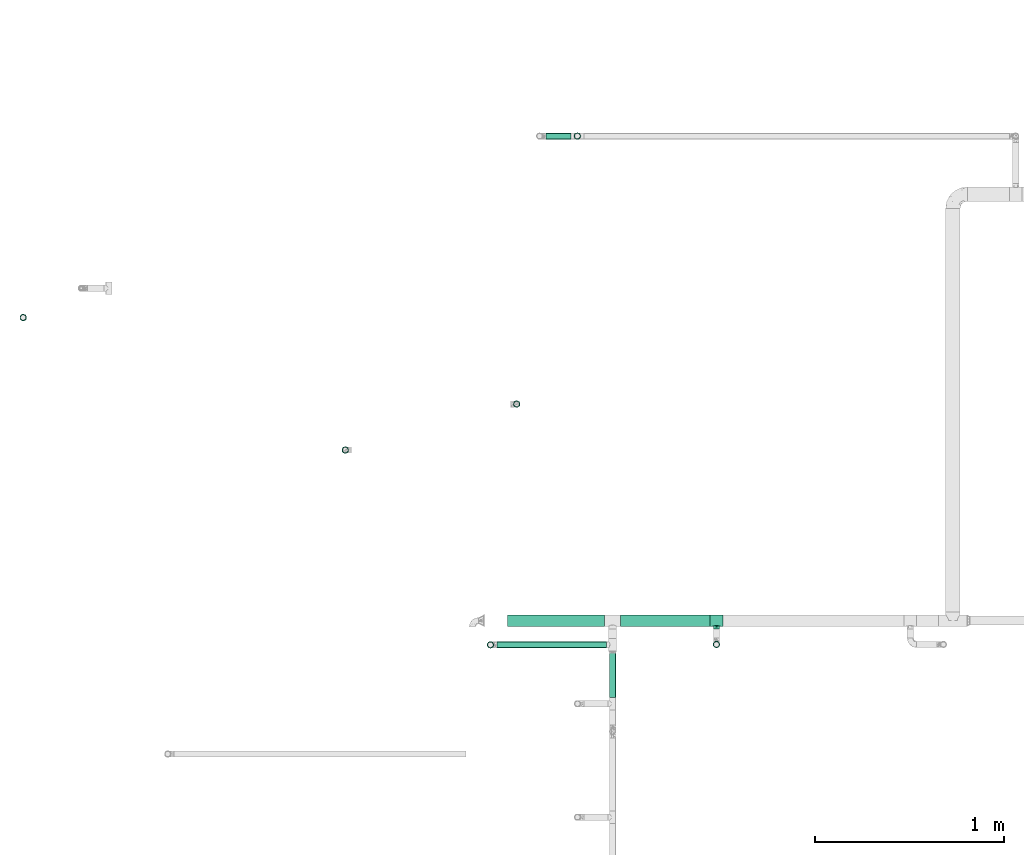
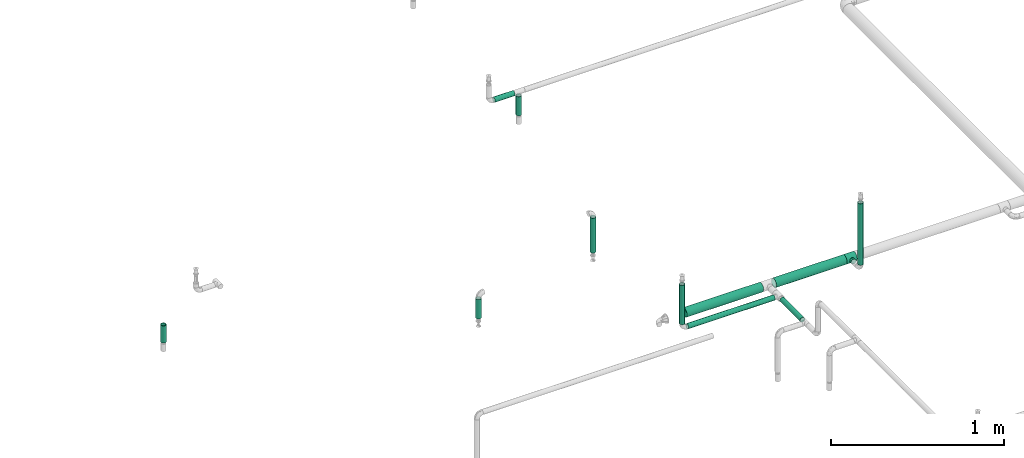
# One storey, part 9 of 157: 11 flow segments, 1 flow fitting.
"""IFC2X3 building model written with IfcOpenShell, lengths in millimetres."""

from ifc_helpers import new_model, entity, si_unit, converted_unit, derived_unit, direction, frame, origin_with_axes, origin_2d_with_axis, place, context, subcontext, project, spatial, hollow_circle, extrude, open_shell, surface_model, source, transform, mapped, type_object, element, save


model = new_model("IFC2X3")

# Units and contexts
model_context = context("Model", 3, precision=0.01, world=frame((0.0, 4.29681676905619e-09, 0.0)), true_north=direction((4.01073788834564e-13, 1.0)))
plan_context = context("Plan", 3, precision=0.01, world=frame((0.0, 4.29681676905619e-09, 0.0)), true_north=direction((4.01073788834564e-13, 1.0)))
body_context = subcontext(model_context, "Body", "Model", "MODEL_VIEW")
ifc_project = project(units=[converted_unit("PLANEANGLEUNIT", "DEGREE", entity("IfcPositiveLengthMeasure", 0.0174532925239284), si_unit("PLANEANGLEUNIT", "RADIAN"), dimensions=[0, 0, 0, 0, 0, 0, 0]), si_unit("AREAUNIT", "SQUARE_METRE"), si_unit("LENGTHUNIT", "METRE", prefix="MILLI"), si_unit("MASSUNIT", "GRAM", prefix="KILO"), si_unit("POWERUNIT", "WATT"), si_unit("PRESSUREUNIT", "PASCAL"), si_unit("FORCEUNIT", "NEWTON", prefix="KILO"), si_unit("ELECTRICCURRENTUNIT", "AMPERE"), si_unit("THERMODYNAMICTEMPERATUREUNIT", "DEGREE_CELSIUS"), si_unit("TIMEUNIT", "SECOND"), si_unit("VOLUMEUNIT", "CUBIC_METRE"), derived_unit("LINEARVELOCITYUNIT", [(si_unit("LENGTHUNIT", "METRE"), 1), (si_unit("TIMEUNIT", "SECOND"), -1)]), derived_unit("VOLUMETRICFLOWRATEUNIT", [(si_unit("VOLUMEUNIT", "CUBIC_METRE"), 1), (si_unit("TIMEUNIT", "SECOND"), -1)]), derived_unit("THERMALTRANSMITTANCEUNIT", [(si_unit("POWERUNIT", "WATT"), 1), (si_unit("THERMODYNAMICTEMPERATUREUNIT", "KELVIN"), -1), (si_unit("AREAUNIT", "SQUARE_METRE"), -1)])], contexts=[model_context, plan_context])

# Site, building, storey
site_placement = place(None, frame((0.0, -4.29681676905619e-09, 0.0), z_axis=(0.0, 0.0, 1.0), x_axis=(1.0, 0.0, 0.0)))
site = spatial("IfcSite", under=ifc_project, at=site_placement, CompositionType="ELEMENT")
building_placement = place(site_placement, frame((0.0, 4.29681676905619e-09, 0.0), z_axis=(0.0, 0.0, 1.0), x_axis=(1.0, 0.0, 0.0)))
building = spatial("IfcBuilding", under=site, at=building_placement, Name="mc-building", CompositionType="ELEMENT")
storey_placement = place(building_placement, frame((0.0, 0.0, 204000.0), z_axis=(0.0, 0.0, 1.0), x_axis=(1.0, 0.0, 0.0)))
storey = spatial("IfcBuildingStorey", under=building, at=storey_placement, Name="Nivå D", CompositionType="ELEMENT", Elevation=204000.0)

# Flow fitting
pipe_fitting_type = type_object("IfcPipeFittingType", Name="magi_pipe_fe_tee_centric_90_NOR", PredefinedType="JUNCTION")
shared_shape_1 = source(origin_with_axes(), body_context, "Body", "SurfaceModel", [
    surface_model("IfcShellBasedSurfaceModel", [(-33.8, 15.1, -26.15397), (-33.8, 7.81634, -29.17096), (-33.8, 0.0, -30.2), (-33.8, 29.17096, -7.81634), (-33.8, 26.15397, -15.1), (-33.8, 21.35462, -21.35462), (-33.8, 30.2, 0.0), (-33.8, -30.2, 0.0), (-33.8, -15.1, -26.15397), (-33.8, -21.35462, -21.35462), (-33.8, -7.81634, -29.17096), (-33.8, -26.15397, -15.1), (-33.8, -29.17096, -7.81634), (-33.8, 26.15397, 15.1), (-33.8, 29.17096, 7.81634), (-33.8, 15.1, 26.15397), (-33.8, -21.35462, 21.35462), (-33.8, 21.35462, 21.35462), (-33.8, 7.81634, 29.17096), (-33.8, -29.17096, 7.81634), (-33.8, -26.15397, 15.1), (-33.8, -7.81634, 29.17096), (-33.8, 0.0, 30.2), (-33.8, -15.1, 26.15397), (33.8, 29.17096, -7.81634), (33.8, 0.0, -30.2), (33.8, 7.81634, -29.17096), (33.8, 21.35462, -21.35462), (33.8, 15.1, -26.15397), (33.8, 26.15397, -15.1), (33.8, -30.2, 0.0), (33.8, -7.81634, -29.17096), (33.8, -21.35462, -21.35462), (33.8, -15.1, -26.15397), (33.8, -29.17096, -7.81634), (33.8, -26.15397, -15.1), (33.8, 30.2, 0.0), (33.8, 29.17096, 7.81634), (33.8, 26.15397, 15.1), (33.8, -29.17096, 7.81634), (33.8, 15.1, 26.15397), (33.8, 7.81634, 29.17096), (33.8, 21.35462, 21.35462), (33.8, -21.35462, 21.35462), (33.8, -26.15397, 15.1), (33.8, -15.1, 26.15397), (33.8, 0.0, 30.2), (33.8, -7.81634, 29.17096), (33.8, -29.68548, 3.90817), (15.846, -29.62306, 5.87488), (16.373, -29.91153, 2.93744), (12.91037, -28.16217, 10.90561), (2.99213, -25.2068, 16.63301), (16.9, -30.2, 0.0), (33.8, -27.66246, 11.45817), (8.50854, -26.43531, 14.60187), (-8.51006, -26.43579, 14.60099), (-33.8, -27.66246, 11.45817), (-12.91447, -28.16405, 10.90075), (-15.84655, -29.62335, 5.87341), (-33.8, -29.68548, 3.90817), (-16.37327, -29.91168, 2.93671), (-16.9, -30.2, 0.0), (-2.99705, -25.20739, 16.63213), (2.99213, -25.2068, -16.63301), (-16.37327, -29.91168, -2.93671), (8.50854, -26.43531, -14.60187), (33.8, -27.66246, -11.45817), (16.373, -29.91153, -2.93744), (-33.8, -29.68548, -3.90817), (-15.84655, -29.62335, -5.87341), (15.846, -29.62306, -5.87488), (12.91037, -28.16217, -10.90561), (33.8, -29.68548, -3.90817), (-2.99705, -25.20739, -16.63213), (-8.51006, -26.43579, -14.60099), (-12.91447, -28.16405, -10.90075), (-33.8, -27.66246, -11.45817), (4.37404, -45.3, -16.32415), (-16.9, -45.3, 0.0), (0.0, -45.3, -16.9), (14.63583, -45.3, -8.45), (8.45, -45.3, -14.63583), (16.32415, -45.3, -4.37404), (11.9501, -45.3, -11.9501), (-11.9501, -45.3, -11.9501), (-8.45, -45.3, -14.63583), (-4.37404, -45.3, -16.32415), (-14.63583, -45.3, -8.45), (-16.32415, -45.3, -4.37404), (16.9, -45.3, 0.0), (8.45, -45.3, 14.63583), (16.32415, -45.3, 4.37404), (14.63583, -45.3, 8.45), (-8.45, -45.3, 14.63583), (11.9501, -45.3, 11.9501), (4.37404, -45.3, 16.32415), (-16.32415, -45.3, 4.37404), (-11.9501, -45.3, 11.9501), (-14.63583, -45.3, 8.45), (0.0, -45.3, 16.9), (-4.37404, -45.3, 16.32415), (-5.75355, -25.82159, 15.61656), (-0.00246, -25.20709, 16.63257), (5.75034, -25.82105, 15.61744), (5.75034, -25.82105, -15.61744), (-0.00246, -25.20709, -16.63257), (-5.75355, -25.82159, -15.61656)], [open_shell([[[0, 1, 2]], [[3, 0, 2]], [[0, 3, 4]], [[5, 0, 4]], [[6, 2, 7]], [[8, 9, 10]], [[9, 2, 10]], [[11, 12, 9]], [[7, 9, 12]], [[9, 7, 2]], [[6, 3, 2]], [[13, 14, 6]], [[7, 15, 13]], [[7, 16, 15]], [[17, 13, 15]], [[18, 15, 16]], [[19, 20, 7]], [[7, 20, 16]], [[21, 22, 23]], [[16, 23, 22]], [[16, 22, 18]], [[7, 13, 6]], [[24, 25, 26]], [[27, 26, 28]], [[29, 24, 26]], [[29, 26, 27]], [[25, 24, 30]], [[31, 32, 33]], [[32, 31, 34]], [[32, 34, 35]], [[34, 31, 30]], [[31, 25, 30]], [[24, 36, 30]], [[36, 37, 38]], [[39, 36, 38]], [[40, 41, 38]], [[40, 38, 42]], [[43, 38, 41]], [[39, 43, 44]], [[39, 38, 43]], [[45, 46, 47]], [[46, 45, 43]], [[41, 46, 43]], [[36, 39, 30]], [[48, 39, 49]], [[30, 48, 50]], [[39, 51, 49]], [[44, 43, 52]], [[30, 50, 53]], [[51, 54, 55]], [[52, 55, 44]], [[48, 49, 50]], [[43, 16, 52]], [[55, 54, 44]], [[56, 57, 58]], [[59, 60, 61]], [[62, 61, 7]], [[59, 58, 19]], [[56, 63, 20]], [[51, 39, 54]], [[20, 57, 56]], [[20, 63, 16]], [[58, 57, 19]], [[63, 52, 16]], [[7, 61, 60]], [[59, 19, 60]], [[43, 23, 16]], [[22, 47, 46]], [[21, 45, 47]], [[18, 46, 41]], [[38, 37, 14]], [[17, 40, 42]], [[13, 42, 38]], [[41, 40, 15]], [[6, 37, 36]], [[23, 45, 21]], [[21, 47, 22]], [[18, 22, 46]], [[41, 15, 18]], [[15, 40, 17]], [[13, 17, 42]], [[14, 13, 38]], [[37, 6, 14]], [[45, 23, 43]], [[4, 24, 29]], [[3, 36, 24]], [[5, 29, 27]], [[25, 31, 10]], [[1, 28, 26]], [[2, 26, 25]], [[27, 28, 0]], [[8, 31, 33]], [[6, 36, 3]], [[3, 24, 4]], [[5, 4, 29]], [[27, 0, 5]], [[0, 28, 1]], [[2, 1, 26]], [[10, 2, 25]], [[31, 8, 10]], [[33, 9, 8]], [[32, 35, 64]], [[7, 65, 62]], [[66, 64, 35]], [[67, 66, 35]], [[32, 64, 9]], [[53, 68, 30]], [[69, 70, 65]], [[71, 72, 34]], [[71, 73, 68]], [[66, 67, 72]], [[34, 72, 67]], [[74, 75, 11]], [[76, 12, 77]], [[11, 9, 74]], [[76, 77, 75]], [[74, 9, 64]], [[76, 70, 12]], [[71, 34, 73]], [[70, 69, 12]], [[65, 7, 69]], [[30, 68, 73]], [[77, 11, 75]], [[32, 9, 33]], [[78, 79, 80]], [[81, 78, 82]], [[81, 83, 78]], [[81, 82, 84]], [[79, 78, 83]], [[80, 85, 86]], [[86, 87, 80]], [[88, 79, 89]], [[85, 80, 88]], [[79, 88, 80]], [[83, 90, 79]], [[91, 90, 92]], [[91, 92, 93]], [[94, 79, 91]], [[91, 93, 95]], [[94, 91, 96]], [[97, 98, 99]], [[98, 97, 94]], [[94, 100, 101]], [[97, 79, 94]], [[96, 100, 94]], [[91, 79, 90]], [[97, 61, 79]], [[58, 99, 98]], [[97, 99, 59]], [[98, 94, 56]], [[61, 62, 79]], [[59, 99, 58]], [[101, 63, 102]], [[56, 58, 98]], [[100, 52, 103]], [[91, 104, 96]], [[100, 96, 52]], [[50, 49, 92]], [[50, 90, 53]], [[104, 91, 55]], [[102, 94, 101]], [[102, 56, 94]], [[100, 63, 101]], [[97, 59, 61]], [[55, 91, 95]], [[95, 51, 55]], [[52, 96, 104]], [[92, 49, 93]], [[90, 50, 92]], [[93, 49, 51]], [[93, 51, 95]], [[103, 63, 100]], [[83, 68, 90]], [[72, 81, 84]], [[83, 81, 71]], [[84, 82, 66]], [[68, 53, 90]], [[71, 81, 72]], [[78, 64, 105]], [[66, 72, 84]], [[80, 74, 106]], [[86, 107, 87]], [[65, 70, 89]], [[105, 82, 78]], [[105, 66, 82]], [[75, 86, 85]], [[83, 71, 68]], [[70, 88, 89]], [[65, 79, 62]], [[85, 88, 76]], [[80, 64, 78]], [[87, 107, 74]], [[74, 80, 87]], [[75, 107, 86]], [[75, 85, 76]], [[76, 88, 70]], [[79, 65, 89]], [[106, 64, 80]]])]),
])
flow_fitting_placement = place(storey_placement, frame((519235.35, 414039.35389, 2690.0), z_axis=(0.0, 0.0, 1.0), x_axis=(1.0, 0.0, 0.0)))
element("IfcFlowFitting", 1, at=flow_fitting_placement, inside=storey, type_object=pipe_fitting_type, Name="magi_pipe_fe_tee_centric_90_NOR", context=body_context, shape_type="MappedRepresentation", body=[
    mapped(shared_shape_1, transform((0.0, 0.0, 0.0), scale=1.0)),
])

# Flow segments
pipe_segment_type = type_object("IfcPipeSegmentType", Name="Stålrør normaltykke", PredefinedType="RIGIDSEGMENT")
shared_shape_2 = source(origin_with_axes(), body_context, "Body", "SweptSolid", [
    extrude(hollow_circle(Radius=16.9, WallThickness=2.0, at=origin_2d_with_axis()), frame((0.0, 0.0, 0.0), z_axis=(1.0, 0.0, 0.0), x_axis=(0.0, 1.0, 0.0)), (0.0, 0.0, 1.0), 278.3),
])
flow_segment_1_placement = place(storey_placement, frame((518040.35, 413911.20018, 3002.14799999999), z_axis=(0.0, 1.0, 0.0), x_axis=(0.0, 0.0, -1.0)))
element("IfcFlowSegment", 2, at=flow_segment_1_placement, inside=storey, type_object=pipe_segment_type, Name="Stålrør normaltykke", context=body_context, shape_type="MappedRepresentation", body=[
    mapped(shared_shape_2, transform((0.0, 0.0, 0.0), scale=1.0)),
])
shared_shape_3 = source(origin_with_axes(), body_context, "Body", "SweptSolid", [
    extrude(hollow_circle(Radius=16.9, WallThickness=2.0, at=origin_2d_with_axis()), frame((0.0, 0.0, 0.0), z_axis=(1.0, 0.0, 0.0), x_axis=(0.0, 1.0, 0.0)), (0.0, 0.0, 1.0), 247.3),
])
flow_segment_2_placement = place(storey_placement, frame((518179.00142, 415184.37012, 2409.35200000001), z_axis=(0.0, -1.0, 0.0), x_axis=(0.0, 0.0, 1.0)))
element("IfcFlowSegment", 3, at=flow_segment_2_placement, inside=storey, type_object=pipe_segment_type, Name="Stålrør normaltykke", context=body_context, shape_type="MappedRepresentation", body=[
    mapped(shared_shape_3, transform((0.0, 0.0, 0.0), scale=1.0)),
])
shared_shape_4 = source(origin_with_axes(), body_context, "Body", "SweptSolid", [
    extrude(hollow_circle(Radius=16.9, WallThickness=2.0, at=origin_2d_with_axis()), frame((0.0, 0.0, 0.0), z_axis=(1.0, 0.0, 0.0), x_axis=(0.0, 1.0, 0.0)), (0.0, 0.0, 1.0), 136.8),
])
flow_segment_3_placement = place(storey_placement, frame((517272.81857, 414941.276, 2409.35200000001), z_axis=(0.0, -1.0, 0.0), x_axis=(0.0, 0.0, 1.0)))
element("IfcFlowSegment", 4, at=flow_segment_3_placement, inside=storey, type_object=pipe_segment_type, Name="Stålrør normaltykke", context=body_context, shape_type="MappedRepresentation", body=[
    mapped(shared_shape_4, transform((0.0, 0.0, 0.0), scale=1.0)),
])
shared_shape_5 = source(origin_with_axes(), body_context, "Body", "SweptSolid", [
    extrude(hollow_circle(Radius=16.9, WallThickness=2.0, at=origin_2d_with_axis()), frame((0.0, 0.0, 0.0), z_axis=(1.0, 0.0, 0.0), x_axis=(0.0, 1.0, 0.0)), (0.0, 0.0, 1.0), 435.5),
])
flow_segment_4_placement = place(storey_placement, frame((519235.35, 413913.20018, 3160.14799999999), z_axis=(0.0, -1.0, 0.0), x_axis=(0.0, 0.0, -1.0)))
element("IfcFlowSegment", 5, at=flow_segment_4_placement, inside=storey, type_object=pipe_segment_type, Name="Stålrør normaltykke", context=body_context, shape_type="MappedRepresentation", body=[
    mapped(shared_shape_5, transform((0.0, 0.0, 0.0), scale=1.0)),
])
shared_shape_6 = source(origin_with_axes(), body_context, "Body", "SweptSolid", [
    extrude(hollow_circle(Radius=16.9, WallThickness=2.0, at=origin_2d_with_axis()), frame((0.0, 0.0, 0.0), z_axis=(1.0, 0.0, 0.0), x_axis=(0.0, 1.0, 0.0)), (0.0, 0.0, 1.0), 135.3),
])
flow_segment_5_placement = place(storey_placement, frame((518500.0, 416601.26652, 2409.35200000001), z_axis=(0.0, 1.0, 0.0), x_axis=(0.0, 0.0, 1.0)))
element("IfcFlowSegment", 6, at=flow_segment_5_placement, inside=storey, type_object=pipe_segment_type, Name="Stålrør normaltykke", context=body_context, shape_type="MappedRepresentation", body=[
    mapped(shared_shape_6, transform((0.0, 0.0, 0.0), scale=1.0)),
])
shared_shape_7 = source(origin_with_axes(), body_context, "Body", "SweptSolid", [
    extrude(hollow_circle(Radius=16.9, WallThickness=2.0, at=origin_2d_with_axis()), frame((0.0, 0.0, 0.0), z_axis=(1.0, 0.0, 0.0), x_axis=(0.0, 1.0, 0.0)), (0.0, 0.0, 1.0), 580.0),
])
flow_segment_6_placement = place(storey_placement, frame((518074.15, 413911.20018, 2690.0), z_axis=(0.0, 0.0, 1.0), x_axis=(1.0, 0.0, 0.0)))
element("IfcFlowSegment", 7, at=flow_segment_6_placement, inside=storey, type_object=pipe_segment_type, Name="Stålrør normaltykke", context=body_context, shape_type="MappedRepresentation", body=[
    mapped(shared_shape_7, transform((0.0, 0.0, 0.0), scale=1.0)),
])
shared_shape_8 = source(origin_with_axes(), body_context, "Body", "SweptSolid", [
    extrude(hollow_circle(Radius=16.9, WallThickness=2.0, at=origin_2d_with_axis()), frame((0.0, 0.0, 0.0), z_axis=(1.0, 0.0, 0.0), x_axis=(0.0, 1.0, 0.0)), (0.0, 0.0, 1.0), 132.6),
])
flow_segment_7_placement = place(storey_placement, frame((518333.57498, 416601.26648, 2570.0), z_axis=(0.0, 0.0, 1.0), x_axis=(1.0, 0.0, 0.0)))
element("IfcFlowSegment", 8, at=flow_segment_7_placement, inside=storey, type_object=pipe_segment_type, Name="Stålrør normaltykke", context=body_context, shape_type="MappedRepresentation", body=[
    mapped(shared_shape_8, transform((0.0, 0.0, 0.0), scale=1.0)),
])
shared_shape_9 = source(origin_with_axes(), body_context, "Body", "SweptSolid", [
    extrude(hollow_circle(Radius=16.9, WallThickness=2.0, at=origin_2d_with_axis()), frame((0.0, 0.0, 0.0), z_axis=(1.0, 0.0, 0.0), x_axis=(0.0, 1.0, 0.0)), (0.0, 0.0, 1.0), 235.0),
])
flow_segment_8_placement = place(storey_placement, frame((518685.97464, 413633.8, 2690.0), z_axis=(0.0, 0.0, 1.0), x_axis=(0.0, 1.0, 0.0)))
element("IfcFlowSegment", 9, at=flow_segment_8_placement, inside=storey, type_object=pipe_segment_type, Name="Stålrør normaltykke", context=body_context, shape_type="MappedRepresentation", body=[
    mapped(shared_shape_9, transform((0.0, 0.0, 0.0), scale=1.0)),
])
shared_shape_10 = source(origin_with_axes(), body_context, "Body", "SweptSolid", [
    extrude(hollow_circle(Radius=30.1, WallThickness=2.0, at=origin_2d_with_axis()), frame((0.0, 0.0, 0.0), z_axis=(1.0, 0.0, 0.0), x_axis=(0.0, 1.0, 0.0)), (0.0, 0.0, 1.0), 473.2),
])
flow_segment_9_placement = place(storey_placement, frame((519201.55, 414039.35389, 2690.0), z_axis=(0.0, 0.0, 1.0), x_axis=(-1.0, 0.0, 0.0)))
element("IfcFlowSegment", 10, at=flow_segment_9_placement, inside=storey, type_object=pipe_segment_type, Name="Stålrør normaltykke", context=body_context, shape_type="MappedRepresentation", body=[
    mapped(shared_shape_10, transform((0.0, 0.0, 0.0), scale=1.0)),
])
shared_shape_11 = source(origin_with_axes(), body_context, "Body", "SweptSolid", [
    extrude(hollow_circle(Radius=16.9, WallThickness=2.0, at=origin_2d_with_axis()), frame((0.0, 0.0, 0.0), z_axis=(1.0, 0.0, 0.0), x_axis=(0.0, 1.0, 0.0)), (0.0, 0.0, 1.0), 121.8),
])
flow_segment_10_placement = place(storey_placement, frame((515569.8271, 415641.97188, 2531.20000000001), z_axis=(0.0, 1.0, 0.0), x_axis=(0.0, 0.0, -1.0)))
element("IfcFlowSegment", 11, at=flow_segment_10_placement, inside=storey, type_object=pipe_segment_type, Name="Stålrør normaltykke", context=body_context, shape_type="MappedRepresentation", body=[
    mapped(shared_shape_11, transform((0.0, 0.0, 0.0), scale=1.0)),
])
shared_shape_12 = source(origin_with_axes(), body_context, "Body", "SweptSolid", [
    extrude(hollow_circle(Radius=30.1, WallThickness=2.0, at=origin_2d_with_axis()), frame((0.0, 0.0, 0.0), z_axis=(1.0, 0.0, 0.0), x_axis=(0.0, 1.0, 0.0)), (0.0, 0.0, 1.0), 512.6),
])
flow_segment_11_placement = place(storey_placement, frame((518643.57464, 414039.35389, 2690.0), z_axis=(0.0, 0.0, 1.0), x_axis=(-1.0, 0.0, 0.0)))
element("IfcFlowSegment", 12, at=flow_segment_11_placement, inside=storey, type_object=pipe_segment_type, Name="Stålrør normaltykke", context=body_context, shape_type="MappedRepresentation", body=[
    mapped(shared_shape_12, transform((0.0, 0.0, 0.0), scale=1.0)),
])

save(model, "model.ifc")
